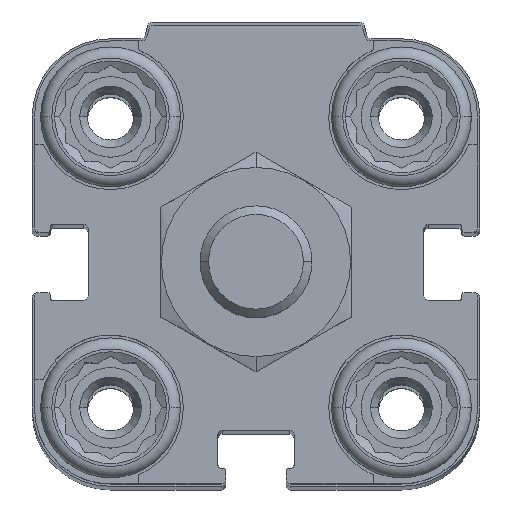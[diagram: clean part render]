
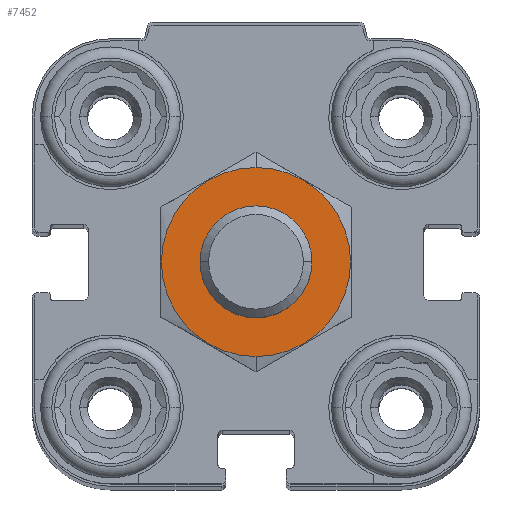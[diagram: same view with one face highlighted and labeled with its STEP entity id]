
A CAD part, top view. The second image highlights one B-rep face of the part: STEP entity #7452.
In plain terms, the highlighted planar face has unit normal (0, 0, 1).
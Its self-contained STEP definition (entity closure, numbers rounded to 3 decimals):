
#311 = EDGE_LOOP ( 'NONE', ( #12924, #10996 ) ) ;
#761 = DIRECTION ( 'NONE',  ( 0., -1., 0. ) ) ;
#1480 = ORIENTED_EDGE ( 'NONE', *, *, #5570, .F. ) ;
#1517 = AXIS2_PLACEMENT_3D ( 'NONE', #5044, #3535, #15907 ) ;
#2071 = CARTESIAN_POINT ( 'NONE',  ( 0., -8.45, 14.5 ) ) ;
#2279 = CARTESIAN_POINT ( 'NONE',  ( 0., 0., 14.5 ) ) ;
#3026 = AXIS2_PLACEMENT_3D ( 'NONE', #2279, #8473, #761 ) ;
#3099 = CARTESIAN_POINT ( 'NONE',  ( 0., -5., 14.5 ) ) ;
#3535 = DIRECTION ( 'NONE',  ( 0., 0., -1. ) ) ;
#3634 = AXIS2_PLACEMENT_3D ( 'NONE', #10735, #6440, #18602 ) ;
#4428 = PLANE ( 'NONE',  #3634 ) ;
#5044 = CARTESIAN_POINT ( 'NONE',  ( 0., 0., 14.5 ) ) ;
#5420 = EDGE_LOOP ( 'NONE', ( #18521, #1480 ) ) ;
#5570 = EDGE_CURVE ( 'NONE', #10211, #6548, #18893, .T. ) ;
#5953 = FACE_OUTER_BOUND ( 'NONE', #5420, .T. ) ;
#6440 = DIRECTION ( 'NONE',  ( 0., 0., -1. ) ) ;
#6548 = VERTEX_POINT ( 'NONE', #2071 ) ;
#7452 = ADVANCED_FACE ( 'NONE', ( #5953, #18314 ), #4428, .F. ) ;
#7584 = CARTESIAN_POINT ( 'NONE',  ( 0., 8.45, 14.5 ) ) ;
#8119 = DIRECTION ( 'NONE',  ( 0., -1., 0. ) ) ;
#8216 = VERTEX_POINT ( 'NONE', #19685 ) ;
#8473 = DIRECTION ( 'NONE',  ( 0., 0., -1. ) ) ;
#8932 = EDGE_CURVE ( 'NONE', #8216, #14002, #9512, .T. ) ;
#8979 = CIRCLE ( 'NONE', #1517, 8.45 ) ;
#9512 = CIRCLE ( 'NONE', #3026, 5. ) ;
#10211 = VERTEX_POINT ( 'NONE', #7584 ) ;
#10735 = CARTESIAN_POINT ( 'NONE',  ( 0., 0., 14.5 ) ) ;
#10996 = ORIENTED_EDGE ( 'NONE', *, *, #11459, .T. ) ;
#11286 = EDGE_CURVE ( 'NONE', #6548, #10211, #8979, .T. ) ;
#11459 = EDGE_CURVE ( 'NONE', #14002, #8216, #19315, .T. ) ;
#12924 = ORIENTED_EDGE ( 'NONE', *, *, #8932, .T. ) ;
#13514 = AXIS2_PLACEMENT_3D ( 'NONE', #18608, #15395, #15295 ) ;
#14002 = VERTEX_POINT ( 'NONE', #3099 ) ;
#15295 = DIRECTION ( 'NONE',  ( 0., -1., 0. ) ) ;
#15395 = DIRECTION ( 'NONE',  ( 0., 0., -1. ) ) ;
#15907 = DIRECTION ( 'NONE',  ( 0., -1., 0. ) ) ;
#17135 = CARTESIAN_POINT ( 'NONE',  ( 0., 0., 14.5 ) ) ;
#18314 = FACE_BOUND ( 'NONE', #311, .T. ) ;
#18521 = ORIENTED_EDGE ( 'NONE', *, *, #11286, .F. ) ;
#18602 = DIRECTION ( 'NONE',  ( 0., -1., 0. ) ) ;
#18608 = CARTESIAN_POINT ( 'NONE',  ( 0., 0., 14.5 ) ) ;
#18646 = DIRECTION ( 'NONE',  ( 0., 0., -1. ) ) ;
#18893 = CIRCLE ( 'NONE', #19216, 8.45 ) ;
#19216 = AXIS2_PLACEMENT_3D ( 'NONE', #17135, #18646, #8119 ) ;
#19315 = CIRCLE ( 'NONE', #13514, 5. ) ;
#19685 = CARTESIAN_POINT ( 'NONE',  ( 0., 5., 14.5 ) ) ;
